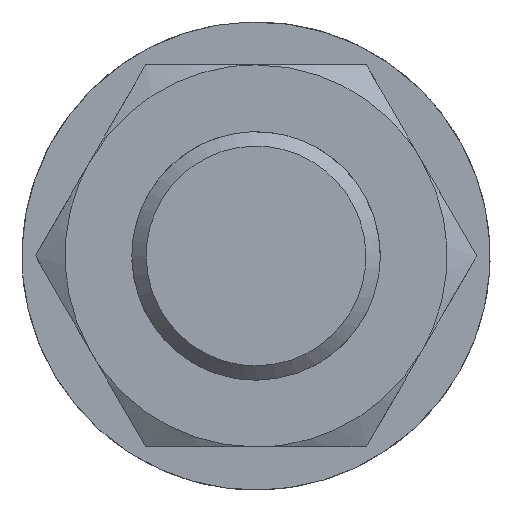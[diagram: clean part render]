
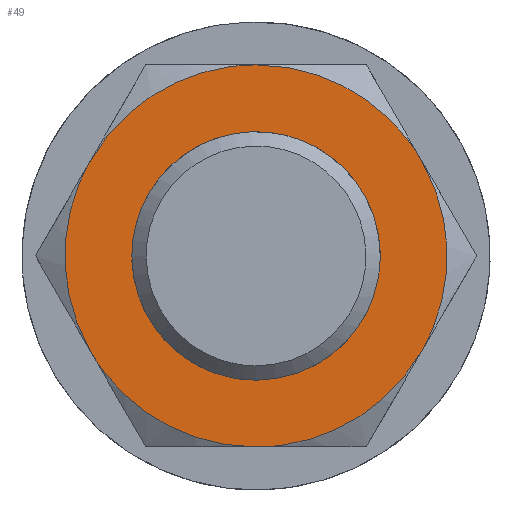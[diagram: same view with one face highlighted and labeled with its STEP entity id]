
A CAD part, left-side view. The second image highlights one B-rep face of the part: STEP entity #49.
In plain terms, the highlighted planar face has unit normal (-1, 0, 0).
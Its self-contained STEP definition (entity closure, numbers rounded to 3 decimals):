
#40=FACE_BOUND('',#138,.T.);
#49=ADVANCED_FACE('',(#92,#40),#663,.T.);
#92=FACE_OUTER_BOUND('',#137,.T.);
#137=EDGE_LOOP('',(#202,#203,#204,#205,#206,#207));
#138=EDGE_LOOP('',(#208,#209));
#202=ORIENTED_EDGE('',*,*,#405,.F.);
#203=ORIENTED_EDGE('',*,*,#407,.F.);
#204=ORIENTED_EDGE('',*,*,#408,.F.);
#205=ORIENTED_EDGE('',*,*,#406,.F.);
#206=ORIENTED_EDGE('',*,*,#404,.F.);
#207=ORIENTED_EDGE('',*,*,#403,.F.);
#208=ORIENTED_EDGE('',*,*,#393,.F.);
#209=ORIENTED_EDGE('',*,*,#391,.F.);
#391=EDGE_CURVE('',#608,#598,#518,.T.);
#393=EDGE_CURVE('',#598,#608,#519,.T.);
#403=EDGE_CURVE('',#602,#603,#527,.T.);
#404=EDGE_CURVE('',#603,#607,#528,.T.);
#405=EDGE_CURVE('',#604,#602,#529,.T.);
#406=EDGE_CURVE('',#607,#606,#530,.T.);
#407=EDGE_CURVE('',#605,#604,#531,.T.);
#408=EDGE_CURVE('',#606,#605,#532,.T.);
#518=(
BOUNDED_CURVE()
B_SPLINE_CURVE(2,(#1166,#1167,#1168,#1169,#1170),.UNSPECIFIED.,.F.,.F.)
B_SPLINE_CURVE_WITH_KNOTS((3,2,3),(81.681,122.522,163.363),
 .UNSPECIFIED.)
CURVE()
GEOMETRIC_REPRESENTATION_ITEM()
RATIONAL_B_SPLINE_CURVE((1.,0.707,1.,0.707,1.))
REPRESENTATION_ITEM('')
);
#519=(
BOUNDED_CURVE()
B_SPLINE_CURVE(2,(#1173,#1174,#1175,#1176,#1177),.UNSPECIFIED.,.F.,.F.)
B_SPLINE_CURVE_WITH_KNOTS((3,2,3),(0.,40.841,81.681),
 .UNSPECIFIED.)
CURVE()
GEOMETRIC_REPRESENTATION_ITEM()
RATIONAL_B_SPLINE_CURVE((1.,0.707,1.,0.707,1.))
REPRESENTATION_ITEM('')
);
#527=(
BOUNDED_CURVE()
B_SPLINE_CURVE(2,(#1215,#1216,#1217),.UNSPECIFIED.,.F.,.F.)
B_SPLINE_CURVE_WITH_KNOTS((3,3),(0.,41.888),.UNSPECIFIED.)
CURVE()
GEOMETRIC_REPRESENTATION_ITEM()
RATIONAL_B_SPLINE_CURVE((1.,0.866,1.))
REPRESENTATION_ITEM('')
);
#528=(
BOUNDED_CURVE()
B_SPLINE_CURVE(2,(#1218,#1219,#1220),.UNSPECIFIED.,.F.,.F.)
B_SPLINE_CURVE_WITH_KNOTS((3,3),(0.,41.888),.UNSPECIFIED.)
CURVE()
GEOMETRIC_REPRESENTATION_ITEM()
RATIONAL_B_SPLINE_CURVE((1.,0.866,1.))
REPRESENTATION_ITEM('')
);
#529=(
BOUNDED_CURVE()
B_SPLINE_CURVE(2,(#1221,#1222,#1223),.UNSPECIFIED.,.F.,.F.)
B_SPLINE_CURVE_WITH_KNOTS((3,3),(0.,41.888),.UNSPECIFIED.)
CURVE()
GEOMETRIC_REPRESENTATION_ITEM()
RATIONAL_B_SPLINE_CURVE((1.,0.866,1.))
REPRESENTATION_ITEM('')
);
#530=(
BOUNDED_CURVE()
B_SPLINE_CURVE(2,(#1224,#1225,#1226),.UNSPECIFIED.,.F.,.F.)
B_SPLINE_CURVE_WITH_KNOTS((3,3),(0.,41.888),.UNSPECIFIED.)
CURVE()
GEOMETRIC_REPRESENTATION_ITEM()
RATIONAL_B_SPLINE_CURVE((1.,0.866,1.))
REPRESENTATION_ITEM('')
);
#531=(
BOUNDED_CURVE()
B_SPLINE_CURVE(2,(#1227,#1228,#1229),.UNSPECIFIED.,.F.,.F.)
B_SPLINE_CURVE_WITH_KNOTS((3,3),(0.,41.888),.UNSPECIFIED.)
CURVE()
GEOMETRIC_REPRESENTATION_ITEM()
RATIONAL_B_SPLINE_CURVE((1.,0.866,1.))
REPRESENTATION_ITEM('')
);
#532=(
BOUNDED_CURVE()
B_SPLINE_CURVE(2,(#1230,#1231,#1232),.UNSPECIFIED.,.F.,.F.)
B_SPLINE_CURVE_WITH_KNOTS((3,3),(0.,41.888),.UNSPECIFIED.)
CURVE()
GEOMETRIC_REPRESENTATION_ITEM()
RATIONAL_B_SPLINE_CURVE((1.,0.866,1.))
REPRESENTATION_ITEM('')
);
#598=VERTEX_POINT('',#1134);
#602=VERTEX_POINT('',#1138);
#603=VERTEX_POINT('',#1139);
#604=VERTEX_POINT('',#1140);
#605=VERTEX_POINT('',#1141);
#606=VERTEX_POINT('',#1142);
#607=VERTEX_POINT('',#1143);
#608=VERTEX_POINT('',#1144);
#663=PLANE('',#777);
#777=AXIS2_PLACEMENT_3D('',#891,#803,$);
#803=DIRECTION('',(-1.,0.,0.));
#891=CARTESIAN_POINT('',(72.667,-55.546,48.12));
#1134=CARTESIAN_POINT('',(72.667,0.,-26.));
#1138=CARTESIAN_POINT('',(72.667,-34.641,20.));
#1139=CARTESIAN_POINT('',(72.667,-34.641,-20.));
#1140=CARTESIAN_POINT('',(72.667,0.,40.));
#1141=CARTESIAN_POINT('',(72.667,34.641,20.));
#1142=CARTESIAN_POINT('',(72.667,34.641,-20.));
#1143=CARTESIAN_POINT('',(72.667,0.,-40.));
#1144=CARTESIAN_POINT('',(72.667,0.,26.));
#1166=CARTESIAN_POINT('',(72.667,0.,26.));
#1167=CARTESIAN_POINT('',(72.667,26.,26.));
#1168=CARTESIAN_POINT('',(72.667,26.,0.));
#1169=CARTESIAN_POINT('',(72.667,26.,-26.));
#1170=CARTESIAN_POINT('',(72.667,0.,-26.));
#1173=CARTESIAN_POINT('',(72.667,0.,-26.));
#1174=CARTESIAN_POINT('',(72.667,-26.,-26.));
#1175=CARTESIAN_POINT('',(72.667,-26.,0.));
#1176=CARTESIAN_POINT('',(72.667,-26.,26.));
#1177=CARTESIAN_POINT('',(72.667,0.,26.));
#1215=CARTESIAN_POINT('',(72.667,-34.641,20.));
#1216=CARTESIAN_POINT('',(72.667,-46.188,0.));
#1217=CARTESIAN_POINT('',(72.667,-34.641,-20.));
#1218=CARTESIAN_POINT('',(72.667,-34.641,-20.));
#1219=CARTESIAN_POINT('',(72.667,-23.094,-40.));
#1220=CARTESIAN_POINT('',(72.667,0.,-40.));
#1221=CARTESIAN_POINT('',(72.667,0.,40.));
#1222=CARTESIAN_POINT('',(72.667,-23.094,40.));
#1223=CARTESIAN_POINT('',(72.667,-34.641,20.));
#1224=CARTESIAN_POINT('',(72.667,0.,-40.));
#1225=CARTESIAN_POINT('',(72.667,23.094,-40.));
#1226=CARTESIAN_POINT('',(72.667,34.641,-20.));
#1227=CARTESIAN_POINT('',(72.667,34.641,20.));
#1228=CARTESIAN_POINT('',(72.667,23.094,40.));
#1229=CARTESIAN_POINT('',(72.667,0.,40.));
#1230=CARTESIAN_POINT('',(72.667,34.641,-20.));
#1231=CARTESIAN_POINT('',(72.667,46.188,0.));
#1232=CARTESIAN_POINT('',(72.667,34.641,20.));
